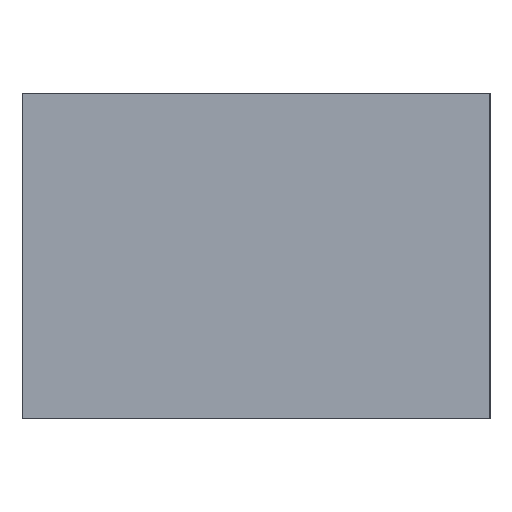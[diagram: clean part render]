
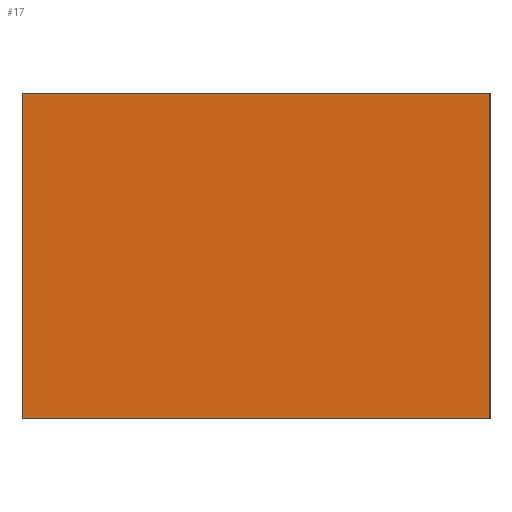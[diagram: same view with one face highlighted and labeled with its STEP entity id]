
A CAD part, left-side view. The second image highlights one B-rep face of the part: STEP entity #17.
In plain terms, the highlighted planar face has unit normal (-1, 0, 0).
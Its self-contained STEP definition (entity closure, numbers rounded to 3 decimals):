
#17 = ADVANCED_FACE('',(#18),#32,.F.);
#18 = FACE_BOUND('',#19,.F.);
#19 = EDGE_LOOP('',(#20,#55,#83,#111));
#20 = ORIENTED_EDGE('',*,*,#21,.F.);
#21 = EDGE_CURVE('',#22,#24,#26,.T.);
#22 = VERTEX_POINT('',#23);
#23 = CARTESIAN_POINT('',(0.,0.,0.));
#24 = VERTEX_POINT('',#25);
#25 = CARTESIAN_POINT('',(0.,0.,24.));
#26 = SURFACE_CURVE('',#27,(#31,#43),.PCURVE_S1.);
#27 = LINE('',#28,#29);
#28 = CARTESIAN_POINT('',(0.,0.,0.));
#29 = VECTOR('',#30,1.);
#30 = DIRECTION('',(0.,0.,1.));
#31 = PCURVE('',#32,#37);
#32 = PLANE('',#33);
#33 = AXIS2_PLACEMENT_3D('',#34,#35,#36);
#34 = CARTESIAN_POINT('',(0.,0.,0.));
#35 = DIRECTION('',(1.,0.,0.));
#36 = DIRECTION('',(0.,0.,1.));
#37 = DEFINITIONAL_REPRESENTATION('',(#38),#42);
#38 = LINE('',#39,#40);
#39 = CARTESIAN_POINT('',(0.,0.));
#40 = VECTOR('',#41,1.);
#41 = DIRECTION('',(1.,0.));
#42 = ( GEOMETRIC_REPRESENTATION_CONTEXT(2) 
PARAMETRIC_REPRESENTATION_CONTEXT() REPRESENTATION_CONTEXT('2D SPACE',''
  ) );
#43 = PCURVE('',#44,#49);
#44 = PLANE('',#45);
#45 = AXIS2_PLACEMENT_3D('',#46,#47,#48);
#46 = CARTESIAN_POINT('',(0.,0.,0.));
#47 = DIRECTION('',(0.,1.,0.));
#48 = DIRECTION('',(0.,0.,1.));
#49 = DEFINITIONAL_REPRESENTATION('',(#50),#54);
#50 = LINE('',#51,#52);
#51 = CARTESIAN_POINT('',(0.,0.));
#52 = VECTOR('',#53,1.);
#53 = DIRECTION('',(1.,0.));
#54 = ( GEOMETRIC_REPRESENTATION_CONTEXT(2) 
PARAMETRIC_REPRESENTATION_CONTEXT() REPRESENTATION_CONTEXT('2D SPACE',''
  ) );
#55 = ORIENTED_EDGE('',*,*,#56,.F.);
#56 = EDGE_CURVE('',#57,#22,#59,.T.);
#57 = VERTEX_POINT('',#58);
#58 = CARTESIAN_POINT('',(0.,34.5,0.));
#59 = SURFACE_CURVE('',#60,(#64,#71),.PCURVE_S1.);
#60 = LINE('',#61,#62);
#61 = CARTESIAN_POINT('',(0.,34.5,0.));
#62 = VECTOR('',#63,1.);
#63 = DIRECTION('',(0.,-1.,0.));
#64 = PCURVE('',#32,#65);
#65 = DEFINITIONAL_REPRESENTATION('',(#66),#70);
#66 = LINE('',#67,#68);
#67 = CARTESIAN_POINT('',(0.,-34.5));
#68 = VECTOR('',#69,1.);
#69 = DIRECTION('',(0.,1.));
#70 = ( GEOMETRIC_REPRESENTATION_CONTEXT(2) 
PARAMETRIC_REPRESENTATION_CONTEXT() REPRESENTATION_CONTEXT('2D SPACE',''
  ) );
#71 = PCURVE('',#72,#77);
#72 = PLANE('',#73);
#73 = AXIS2_PLACEMENT_3D('',#74,#75,#76);
#74 = CARTESIAN_POINT('',(0.,0.,0.));
#75 = DIRECTION('',(0.,0.,1.));
#76 = DIRECTION('',(1.,0.,0.));
#77 = DEFINITIONAL_REPRESENTATION('',(#78),#82);
#78 = LINE('',#79,#80);
#79 = CARTESIAN_POINT('',(0.,34.5));
#80 = VECTOR('',#81,1.);
#81 = DIRECTION('',(0.,-1.));
#82 = ( GEOMETRIC_REPRESENTATION_CONTEXT(2) 
PARAMETRIC_REPRESENTATION_CONTEXT() REPRESENTATION_CONTEXT('2D SPACE',''
  ) );
#83 = ORIENTED_EDGE('',*,*,#84,.T.);
#84 = EDGE_CURVE('',#57,#85,#87,.T.);
#85 = VERTEX_POINT('',#86);
#86 = CARTESIAN_POINT('',(0.,34.5,24.));
#87 = SURFACE_CURVE('',#88,(#92,#99),.PCURVE_S1.);
#88 = LINE('',#89,#90);
#89 = CARTESIAN_POINT('',(0.,34.5,0.));
#90 = VECTOR('',#91,1.);
#91 = DIRECTION('',(0.,0.,1.));
#92 = PCURVE('',#32,#93);
#93 = DEFINITIONAL_REPRESENTATION('',(#94),#98);
#94 = LINE('',#95,#96);
#95 = CARTESIAN_POINT('',(0.,-34.5));
#96 = VECTOR('',#97,1.);
#97 = DIRECTION('',(1.,0.));
#98 = ( GEOMETRIC_REPRESENTATION_CONTEXT(2) 
PARAMETRIC_REPRESENTATION_CONTEXT() REPRESENTATION_CONTEXT('2D SPACE',''
  ) );
#99 = PCURVE('',#100,#105);
#100 = PLANE('',#101);
#101 = AXIS2_PLACEMENT_3D('',#102,#103,#104);
#102 = CARTESIAN_POINT('',(0.,34.5,0.));
#103 = DIRECTION('',(0.,1.,0.));
#104 = DIRECTION('',(0.,0.,1.));
#105 = DEFINITIONAL_REPRESENTATION('',(#106),#110);
#106 = LINE('',#107,#108);
#107 = CARTESIAN_POINT('',(0.,0.));
#108 = VECTOR('',#109,1.);
#109 = DIRECTION('',(1.,0.));
#110 = ( GEOMETRIC_REPRESENTATION_CONTEXT(2) 
PARAMETRIC_REPRESENTATION_CONTEXT() REPRESENTATION_CONTEXT('2D SPACE',''
  ) );
#111 = ORIENTED_EDGE('',*,*,#112,.F.);
#112 = EDGE_CURVE('',#24,#85,#113,.T.);
#113 = SURFACE_CURVE('',#114,(#118,#125),.PCURVE_S1.);
#114 = LINE('',#115,#116);
#115 = CARTESIAN_POINT('',(0.,0.,24.));
#116 = VECTOR('',#117,1.);
#117 = DIRECTION('',(0.,1.,0.));
#118 = PCURVE('',#32,#119);
#119 = DEFINITIONAL_REPRESENTATION('',(#120),#124);
#120 = LINE('',#121,#122);
#121 = CARTESIAN_POINT('',(24.,0.));
#122 = VECTOR('',#123,1.);
#123 = DIRECTION('',(0.,-1.));
#124 = ( GEOMETRIC_REPRESENTATION_CONTEXT(2) 
PARAMETRIC_REPRESENTATION_CONTEXT() REPRESENTATION_CONTEXT('2D SPACE',''
  ) );
#125 = PCURVE('',#126,#131);
#126 = PLANE('',#127);
#127 = AXIS2_PLACEMENT_3D('',#128,#129,#130);
#128 = CARTESIAN_POINT('',(0.,0.,24.));
#129 = DIRECTION('',(0.,0.,1.));
#130 = DIRECTION('',(1.,0.,0.));
#131 = DEFINITIONAL_REPRESENTATION('',(#132),#136);
#132 = LINE('',#133,#134);
#133 = CARTESIAN_POINT('',(0.,0.));
#134 = VECTOR('',#135,1.);
#135 = DIRECTION('',(0.,1.));
#136 = ( GEOMETRIC_REPRESENTATION_CONTEXT(2) 
PARAMETRIC_REPRESENTATION_CONTEXT() REPRESENTATION_CONTEXT('2D SPACE',''
  ) );
